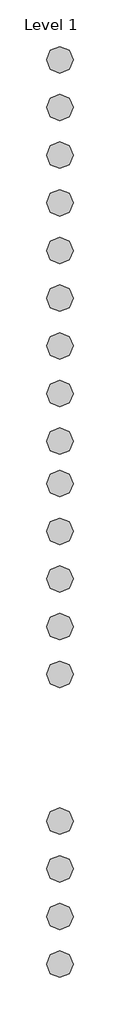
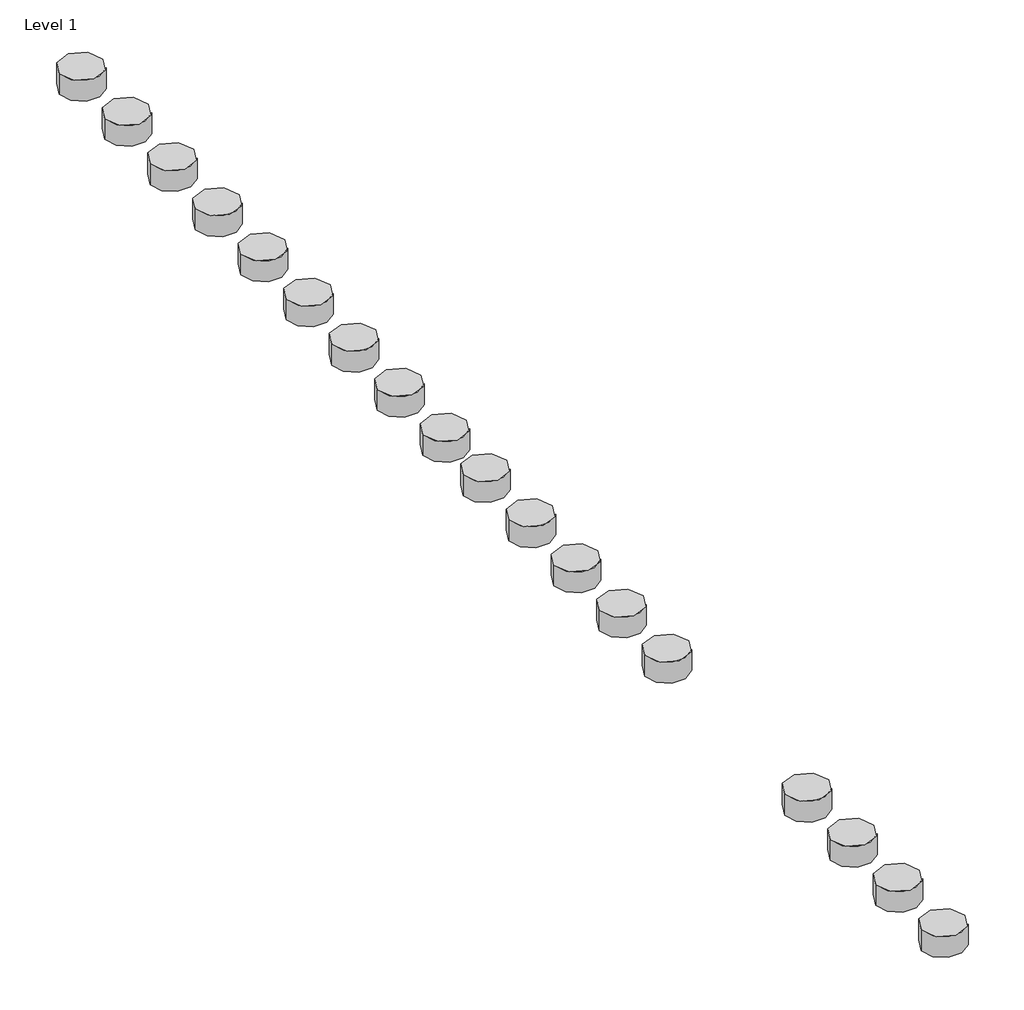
# One storey, incomplete: 18 proxies.
"""IFC4 building model written with IfcOpenShell, lengths in millimetres."""

import ifcopenshell
import ifcopenshell.guid

model = None  # the IFC model being written
_history = None  # IfcOwnerHistory: only IFC2X3 demands one
_inside = {}  # id of a spatial element -> (the spatial element, [elements in it])
_under = {}  # id of a project, library or spatial element -> (it, [spatial elements below it])
_declared = {}  # id of a project -> (the project, [libraries it declares])
_typed = {}  # id of a type object -> (the type object, [elements of that type])
_made_of = {}  # id of a material, layer set ... -> (it, [elements and type objects made of it])


def new_model(schema):
    """Start an empty IFC model of exactly this schema.

    Asked for "IFC4X3", IfcOpenShell would pick the latest addendum, in which some entities
    have other attributes; the version numbers below select the first issue.
    IFC2X3 requires an IfcOwnerHistory on every rooted entity: one is made here for all.
    """
    global model, _history
    if schema == "IFC4X3":
        model = ifcopenshell.file(schema_version=(4, 3, 0, 0))
    else:
        model = ifcopenshell.file(schema=schema)
    _inside.clear()
    _under.clear()
    _declared.clear()
    _typed.clear()
    _made_of.clear()
    _history = None
    if model.schema == "IFC2X3":
        org = make("IfcOrganization", Name="unknown")
        user = make(
            "IfcPersonAndOrganization",
            ThePerson=make("IfcPerson", FamilyName="unknown"),
            TheOrganization=org,
        )
        app = make(
            "IfcApplication",
            ApplicationDeveloper=org,
            Version="unknown",
            ApplicationFullName="unknown",
            ApplicationIdentifier="unknown",
        )
        _history = make(
            "IfcOwnerHistory",
            OwningUser=user,
            OwningApplication=app,
            ChangeAction="ADDED",
            CreationDate=0,
        )
    return model


def make(cls, **values):
    """One entity of the class cls with the attributes given. An attribute that is None is left unset."""
    return model.create_entity(
        cls, **{name: value for name, value in values.items() if value is not None}
    )


def rooted(cls, **values):
    """An entity with a GlobalId (a new one), such as an element, a storey or a relation."""
    return make(cls, GlobalId=ifcopenshell.guid.new(), OwnerHistory=_history, **values)


def si_unit(unit_type, name, prefix=None):
    """IfcSIUnit, for example si_unit("LENGTHUNIT", "METRE", prefix="MILLI")."""
    return make("IfcSIUnit", UnitType=unit_type, Prefix=prefix, Name=name)


def assignment(units):
    """IfcUnitAssignment: the units of a project."""
    return None if units is None else make("IfcUnitAssignment", Units=units)


def point(xyz):
    """IfcCartesianPoint."""
    return None if xyz is None else make("IfcCartesianPoint", Coordinates=xyz)


def direction(xyz):
    """IfcDirection."""
    return None if xyz is None else make("IfcDirection", DirectionRatios=xyz)


def frame(location, z_axis=None, x_axis=None):
    """IfcAxis2Placement3D, a coordinate frame: its origin and axes. An axis left out is left unset."""
    return make(
        "IfcAxis2Placement3D",
        Location=point(location),
        Axis=direction(z_axis),
        RefDirection=direction(x_axis),
    )


def frame_2d(location, x_axis=None):
    """IfcAxis2Placement2D, a coordinate frame in the plane: its origin and x axis."""
    return make(
        "IfcAxis2Placement2D", Location=point(location), RefDirection=direction(x_axis)
    )


def origin():
    """The frame at (0, 0, 0) with its axes left unset."""
    return frame((0.0, 0.0, 0.0))


def origin_with_axes():
    """The frame at (0, 0, 0) with the z axis (0, 0, 1) and the x axis (1, 0, 0) written out."""
    return frame((0.0, 0.0, 0.0), z_axis=(0.0, 0.0, 1.0), x_axis=(1.0, 0.0, 0.0))


def origin_2d():
    """The frame at (0, 0) in the plane with its x axis left unset."""
    return frame_2d((0.0, 0.0))


def place(relative_to, where):
    """IfcLocalPlacement: puts the frame where relative to a parent placement (None: the world)."""
    return make(
        "IfcLocalPlacement", PlacementRelTo=relative_to, RelativePlacement=where
    )


def context(
    kind, dimensions, precision=None, world=None, true_north=None, identifier=None
):
    """IfcGeometricRepresentationContext, for example the 3D "Model" context."""
    return make(
        "IfcGeometricRepresentationContext",
        ContextIdentifier=identifier,
        ContextType=kind,
        CoordinateSpaceDimension=dimensions,
        Precision=precision,
        WorldCoordinateSystem=world,
        TrueNorth=true_north,
    )


def project(units=None, contexts=None):
    """IfcProject with its units and contexts."""
    return rooted(
        "IfcProject",
        Name="project",
        RepresentationContexts=contexts,
        UnitsInContext=assignment(units),
    )


def spatial(cls, under=None, at=None, **own):
    """A site, building, storey or space (cls), placed at a placement, below another one or the project."""
    s = rooted(cls, ObjectPlacement=at, **own)
    if under is not None:
        _under.setdefault(under.id(), (under, []))[1].append(s)
    return s


def circle_curve(where, radius):
    """IfcCircle in the frame where."""
    return make("IfcCircle", Position=where, Radius=radius)


def trimmed(basis, trim1, trim2, sense, master):
    """IfcTrimmedCurve: the piece of a basis curve between two trims."""
    return make(
        "IfcTrimmedCurve",
        BasisCurve=basis,
        Trim1=trim1,
        Trim2=trim2,
        SenseAgreement=sense,
        MasterRepresentation=master,
    )


def segment(curve, same_sense, transition):
    """IfcCompositeCurveSegment."""
    return make(
        "IfcCompositeCurveSegment",
        Transition=transition,
        SameSense=same_sense,
        ParentCurve=curve,
    )


def composite_curve(segments, self_intersect=None):
    """IfcCompositeCurve: segments joined end to end."""
    return make("IfcCompositeCurve", Segments=segments, SelfIntersect=self_intersect)


def outline(outer, holes=None, kind="AREA"):
    """IfcArbitraryClosedProfileDef: a profile drawn as a closed curve; with holes, ...WithVoids."""
    if holes is None:
        return make("IfcArbitraryClosedProfileDef", ProfileType=kind, OuterCurve=outer)
    return make(
        "IfcArbitraryProfileDefWithVoids",
        ProfileType=kind,
        OuterCurve=outer,
        InnerCurves=holes,
    )


def extrude(swept, where, along, depth):
    """IfcExtrudedAreaSolid: the profile swept, set in the frame where, extruded along a direction by depth."""
    return make(
        "IfcExtrudedAreaSolid",
        SweptArea=swept,
        Position=where,
        ExtrudedDirection=direction(along),
        Depth=depth,
    )


def shape(context_of_items, identifier, shape_type, items):
    """IfcShapeRepresentation: the items that make up one representation, for example the "Body"."""
    return make(
        "IfcShapeRepresentation",
        ContextOfItems=context_of_items,
        RepresentationIdentifier=identifier,
        RepresentationType=shape_type,
        Items=items,
    )


def source(mapping_origin, context_of_items, identifier, shape_type, items):
    """IfcRepresentationMap: a shape defined once, which mapped items show again and again."""
    return make(
        "IfcRepresentationMap",
        MappingOrigin=mapping_origin,
        MappedRepresentation=shape(context_of_items, identifier, shape_type, items),
    )


def transform(
    local_origin,
    x_axis=None,
    y_axis=None,
    z_axis=None,
    scale=None,
    scale2=None,
    scale3=None,
    uniform=True,
):
    """IfcCartesianTransformationOperator3D, or its non-uniform kind. x_axis, y_axis, z_axis: its Axis1, 2, 3."""
    if uniform:
        return make(
            "IfcCartesianTransformationOperator3D",
            Axis1=direction(x_axis),
            Axis2=direction(y_axis),
            LocalOrigin=point(local_origin),
            Scale=scale,
            Axis3=direction(z_axis),
        )
    return make(
        "IfcCartesianTransformationOperator3DnonUniform",
        Axis1=direction(x_axis),
        Axis2=direction(y_axis),
        LocalOrigin=point(local_origin),
        Scale=scale,
        Axis3=direction(z_axis),
        Scale2=scale2,
        Scale3=scale3,
    )


def mapped(mapping_source, mapping_target):
    """IfcMappedItem: shows the shape of a source again, moved by a transform."""
    return make(
        "IfcMappedItem", MappingSource=mapping_source, MappingTarget=mapping_target
    )


def made_of(thing, what):
    """Note that an element or type object is made of a material, layer set ...; save() writes the relation."""
    if what is not None:
        _made_of.setdefault(what.id(), (what, []))[1].append(thing)
    return thing


def element(
    cls,
    number,
    at=None,
    inside=None,
    cuts=None,
    type_object=None,
    material=None,
    context=None,
    identifier="Body",
    shape_type=None,
    held_by="IfcProductDefinitionShape",
    body=None,
    shapes=None,
    **own,
):
    """One element of the class cls, such as IfcWall. Its Tag is "e" and its number.

    at: its placement. inside: the storey or other place that contains it. cuts: it is an
    opening in that element (IfcRelVoidsElement). A single representation is given by context,
    identifier, shape_type and body (its items); several are given by shapes. held_by: the class
    of the entity that holds the representations. save() writes the other relations.
    """
    e = rooted(cls, Tag="e%d" % number, ObjectPlacement=at, **own)
    if body is not None:
        shapes = [shape(context, identifier, shape_type, body)]
    if shapes is not None:
        e.Representation = make(held_by, Representations=shapes)
    if inside is not None:
        _inside.setdefault(inside.id(), (inside, []))[1].append(e)
    if cuts is not None:
        rooted(
            "IfcRelVoidsElement", RelatingBuildingElement=cuts, RelatedOpeningElement=e
        )
    if type_object is not None:
        _typed.setdefault(type_object.id(), (type_object, []))[1].append(e)
    return made_of(e, material)


def aggregate(whole, parts):
    """IfcRelAggregates: a whole, such as a stair, and the parts it consists of."""
    return rooted("IfcRelAggregates", RelatingObject=whole, RelatedObjects=parts)


def save(model, path):
    """Write the relations noted so far, then the file.

    IfcRelAggregates (storeys below a building ...), IfcRelContainedInSpatialStructure (elements
    in a storey), IfcRelDefinesByType, IfcRelAssociatesMaterial and IfcRelDeclares: one each for
    every whole, place, type object, material and project.
    """
    for whole, parts in _under.values():
        aggregate(whole, parts)
    for where, things in _inside.values():
        rooted(
            "IfcRelContainedInSpatialStructure",
            RelatedElements=things,
            RelatingStructure=where,
        )
    for kind, things in _typed.values():
        rooted("IfcRelDefinesByType", RelatedObjects=things, RelatingType=kind)
    for what, things in _made_of.values():
        rooted("IfcRelAssociatesMaterial", RelatedObjects=things, RelatingMaterial=what)
    for by, libraries in _declared.values():
        rooted("IfcRelDeclares", RelatingContext=by, RelatedDefinitions=libraries)
    model.write(path)


def materialmodel_materialmodel_02e69005(model_context):
    return source(origin(), model_context, "Body", "SweptSolid", [
        extrude(outline(composite_curve([segment(trimmed(circle_curve(origin_2d(), 50.0), [point((-50.0, 0.0))], [point((50.0, 0.0))], False, "CARTESIAN"), True, "CONTINUOUS"), segment(trimmed(circle_curve(origin_2d(), 50.0), [point((50.0, 0.0))], [point((-50.0, 0.0))], False, "CARTESIAN"), True, "CONTINUOUS")], self_intersect=False)), origin_with_axes(), (0.0, 0.0, 1.0), 50.0),
    ])


model = new_model("IFC4")

# Units and contexts
model_context = context("Model", 3, world=origin())
ifc_project = project(units=[si_unit("LENGTHUNIT", "METRE", prefix="MILLI")], contexts=[model_context])

# Site, building, storey
site = spatial("IfcSite", under=ifc_project)
building = spatial("IfcBuilding", under=site)
storey = spatial("IfcBuildingStorey", under=building, Name="Level 1", Elevation=0.0)

# Proxies
placement = place(None, origin())
materialmodel_materialmodel_shape = materialmodel_materialmodel_02e69005(model_context)
element("IfcBuildingElementProxy", 1, Name="MaterialModel : MaterialModel", ObjectType="MaterialModel : MaterialModel", at=placement, inside=storey, context=model_context, shape_type="MappedRepresentation", body=[
    mapped(materialmodel_materialmodel_shape, transform((-5632.1657896, 4174.5048486, 0.0), x_axis=(1.0, 0.0, 0.0), y_axis=(0.0, 1.0, 0.0), z_axis=(0.0, 0.0, 1.0))),
])
element("IfcBuildingElementProxy", 2, Name="MaterialModel : MaterialModel", ObjectType="MaterialModel : MaterialModel", at=placement, inside=storey, context=model_context, shape_type="MappedRepresentation", body=[
    mapped(materialmodel_materialmodel_shape, transform((-5632.1657896, 1300.2505234, 0.0), x_axis=(1.0, 0.0, 0.0), y_axis=(0.0, 1.0, 0.0), z_axis=(0.0, 0.0, 1.0))),
])
element("IfcBuildingElementProxy", 3, Name="MaterialModel : MaterialModel", ObjectType="MaterialModel : MaterialModel", at=placement, inside=storey, context=model_context, shape_type="MappedRepresentation", body=[
    mapped(materialmodel_materialmodel_shape, transform((-5632.1657896, 3994.5048486, 0.0), x_axis=(1.0, 0.0, 0.0), y_axis=(0.0, 1.0, 0.0), z_axis=(0.0, 0.0, 1.0))),
])
element("IfcBuildingElementProxy", 4, Name="MaterialModel : MaterialModel", ObjectType="MaterialModel : MaterialModel", at=placement, inside=storey, context=model_context, shape_type="MappedRepresentation", body=[
    mapped(materialmodel_materialmodel_shape, transform((-5632.1657896, 3814.5048486, 0.0), x_axis=(1.0, 0.0, 0.0), y_axis=(0.0, 1.0, 0.0), z_axis=(0.0, 0.0, 1.0))),
])
element("IfcBuildingElementProxy", 5, Name="MaterialModel : MaterialModel", ObjectType="MaterialModel : MaterialModel", at=placement, inside=storey, context=model_context, shape_type="MappedRepresentation", body=[
    mapped(materialmodel_materialmodel_shape, transform((-5632.1657896, 3634.5048486, 0.0), x_axis=(1.0, 0.0, 0.0), y_axis=(0.0, 1.0, 0.0), z_axis=(0.0, 0.0, 1.0))),
])
element("IfcBuildingElementProxy", 6, Name="MaterialModel : MaterialModel", ObjectType="MaterialModel : MaterialModel", at=placement, inside=storey, context=model_context, shape_type="MappedRepresentation", body=[
    mapped(materialmodel_materialmodel_shape, transform((-5632.1657896, 3454.5048486, 0.0), x_axis=(1.0, 0.0, 0.0), y_axis=(0.0, 1.0, 0.0), z_axis=(0.0, 0.0, 1.0))),
])
element("IfcBuildingElementProxy", 7, Name="MaterialModel : MaterialModel", ObjectType="MaterialModel : MaterialModel", at=placement, inside=storey, context=model_context, shape_type="MappedRepresentation", body=[
    mapped(materialmodel_materialmodel_shape, transform((-5632.1657896, 3274.5048486, 0.0), x_axis=(1.0, 0.0, 0.0), y_axis=(0.0, 1.0, 0.0), z_axis=(0.0, 0.0, 1.0))),
])
element("IfcBuildingElementProxy", 8, Name="MaterialModel : MaterialModel", ObjectType="MaterialModel : MaterialModel", at=placement, inside=storey, context=model_context, shape_type="MappedRepresentation", body=[
    mapped(materialmodel_materialmodel_shape, transform((-5632.1657896, 3094.5048486, 0.0), x_axis=(1.0, 0.0, 0.0), y_axis=(0.0, 1.0, 0.0), z_axis=(0.0, 0.0, 1.0))),
])
element("IfcBuildingElementProxy", 9, Name="MaterialModel : MaterialModel", ObjectType="MaterialModel : MaterialModel", at=placement, inside=storey, context=model_context, shape_type="MappedRepresentation", body=[
    mapped(materialmodel_materialmodel_shape, transform((-5632.1657896, 2914.5048486, 0.0), x_axis=(1.0, 0.0, 0.0), y_axis=(0.0, 1.0, 0.0), z_axis=(0.0, 0.0, 1.0))),
])
element("IfcBuildingElementProxy", 10, Name="MaterialModel : MaterialModel", ObjectType="MaterialModel : MaterialModel", at=placement, inside=storey, context=model_context, shape_type="MappedRepresentation", body=[
    mapped(materialmodel_materialmodel_shape, transform((-5632.1657896, 2734.5048486, 0.0), x_axis=(1.0, 0.0, 0.0), y_axis=(0.0, 1.0, 0.0), z_axis=(0.0, 0.0, 1.0))),
])
element("IfcBuildingElementProxy", 11, Name="MaterialModel : MaterialModel", ObjectType="MaterialModel : MaterialModel", at=placement, inside=storey, context=model_context, shape_type="MappedRepresentation", body=[
    mapped(materialmodel_materialmodel_shape, transform((-5632.1657896, 2214.5048486, 0.0), x_axis=(1.0, 0.0, 0.0), y_axis=(0.0, 1.0, 0.0), z_axis=(0.0, 0.0, 1.0))),
])
element("IfcBuildingElementProxy", 12, Name="MaterialModel : MaterialModel", ObjectType="MaterialModel : MaterialModel", at=placement, inside=storey, context=model_context, shape_type="MappedRepresentation", body=[
    mapped(materialmodel_materialmodel_shape, transform((-5632.1657896, 2034.5048486, 0.0), x_axis=(1.0, 0.0, 0.0), y_axis=(0.0, 1.0, 0.0), z_axis=(0.0, 0.0, 1.0))),
])
element("IfcBuildingElementProxy", 13, Name="MaterialModel : MaterialModel", ObjectType="MaterialModel : MaterialModel", at=placement, inside=storey, context=model_context, shape_type="MappedRepresentation", body=[
    mapped(materialmodel_materialmodel_shape, transform((-5632.1657896, 1854.5048486, 0.0), x_axis=(1.0, 0.0, 0.0), y_axis=(0.0, 1.0, 0.0), z_axis=(0.0, 0.0, 1.0))),
])
element("IfcBuildingElementProxy", 14, Name="MaterialModel : MaterialModel", ObjectType="MaterialModel : MaterialModel", at=placement, inside=storey, context=model_context, shape_type="MappedRepresentation", body=[
    mapped(materialmodel_materialmodel_shape, transform((-5632.1657896, 1120.2505234, 0.0), x_axis=(1.0, 0.0, 0.0), y_axis=(0.0, 1.0, 0.0), z_axis=(0.0, 0.0, 1.0))),
])
element("IfcBuildingElementProxy", 15, Name="MaterialModel : MaterialModel", ObjectType="MaterialModel : MaterialModel", at=placement, inside=storey, context=model_context, shape_type="MappedRepresentation", body=[
    mapped(materialmodel_materialmodel_shape, transform((-5632.1657896, 940.2505234, 0.0), x_axis=(1.0, 0.0, 0.0), y_axis=(0.0, 1.0, 0.0), z_axis=(0.0, 0.0, 1.0))),
])
element("IfcBuildingElementProxy", 16, Name="MaterialModel : MaterialModel", ObjectType="MaterialModel : MaterialModel", at=placement, inside=storey, context=model_context, shape_type="MappedRepresentation", body=[
    mapped(materialmodel_materialmodel_shape, transform((-5632.1657896, 760.2505234, 0.0), x_axis=(1.0, 0.0, 0.0), y_axis=(0.0, 1.0, 0.0), z_axis=(0.0, 0.0, 1.0))),
])
element("IfcBuildingElementProxy", 17, Name="MaterialModel : MaterialModel", ObjectType="MaterialModel : MaterialModel", at=placement, inside=storey, context=model_context, shape_type="MappedRepresentation", body=[
    mapped(materialmodel_materialmodel_shape, transform((-5632.1657896, 2574.5048486, 0.0), x_axis=(1.0, 0.0, 0.0), y_axis=(0.0, 1.0, 0.0), z_axis=(0.0, 0.0, 1.0))),
])
element("IfcBuildingElementProxy", 18, Name="MaterialModel : MaterialModel", ObjectType="MaterialModel : MaterialModel", at=placement, inside=storey, context=model_context, shape_type="MappedRepresentation", body=[
    mapped(materialmodel_materialmodel_shape, transform((-5632.1657896, 2394.5048486, 0.0), x_axis=(1.0, 0.0, 0.0), y_axis=(0.0, 1.0, 0.0), z_axis=(0.0, 0.0, 1.0))),
])

save(model, "model.ifc")
